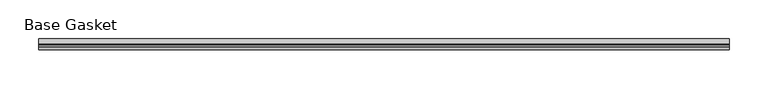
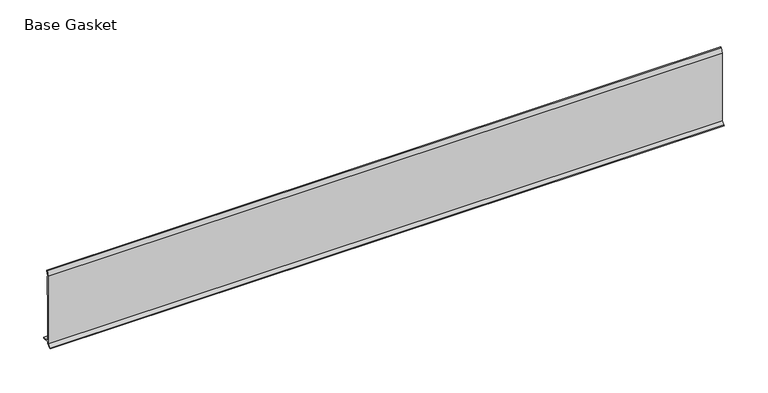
"""IFC4 building model written with IfcOpenShell, lengths in millimetres: furniture geometry, Gasket-Teknion-FHGB-AI_Healthcare-R2021 : Base Gasket."""

from ifc_helpers import new_model, si_unit, frame, origin, place, context, project, spatial, polyline, outline, extrude, source, transform, mapped, element, save


def base_gasket_700f3613(model_context):
    return source(origin(), model_context, "Body", "SweptSolid", [
        extrude(outline(polyline([(-3.7283812, 98.4568417), (-1.1891543, 104.587663), (-0.6755308, 105.2002997), (-0.6755308, 104.4162708), (-2.2043812, 98.4568417), (-2.2043812, 96.8693477), (-1.4106313, 96.8693477), (-1.4106313, 71.4693447), (-2.2043812, 71.4693447), (-2.2043812, 7.9398773), (6.2405171, 7.9398773), (6.2405171, 6.3818476), (-2.1334222, 6.3818476), (-2.2043812, 4.3498477), (-6.8281054, 0.3520979), (-7.8482342, 0.0), (-7.4222115, 0.6560174), (-3.7283812, 4.3498477), (-3.7283812, 98.4568417)])), frame((-1527.8982117, 0.0, 0.0), z_axis=(1.0, 0.0, 0.0), x_axis=(0.0, 1.0, 0.0)), (0.0, 0.0, 1.0), 886.9023403),
    ])


if __name__ == "__main__":
    model = new_model("IFC4")
    model_context = context("Model", 3, world=origin())
    ifc_project = project(units=[si_unit("LENGTHUNIT", "METRE", prefix="MILLI")], contexts=[model_context])
    site = spatial("IfcSite", under=ifc_project)
    building = spatial("IfcBuilding", under=site)
    placement = place(None, origin())
    base_gasket_shape = base_gasket_700f3613(model_context)
    element("IfcFurniture", 1, ObjectType="Gasket-Teknion-FHGB-AI_Healthcare-R2021 : Base Gasket", at=placement, inside=building, context=model_context, shape_type="MappedRepresentation", body=[
        mapped(base_gasket_shape, transform((0.0, 0.0, 0.0), x_axis=(1.0, 0.0, 0.0), y_axis=(0.0, 1.0, 0.0), z_axis=(0.0, 0.0, 1.0))),
    ])
    save(model, "model.ifc")
